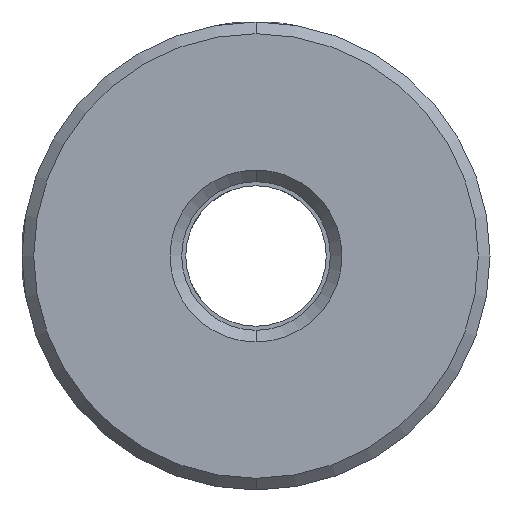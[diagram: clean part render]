
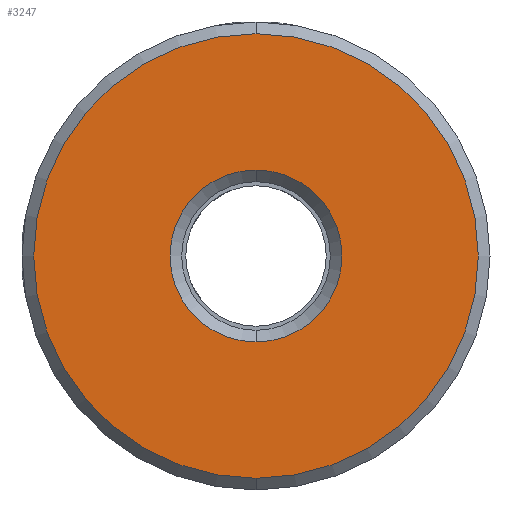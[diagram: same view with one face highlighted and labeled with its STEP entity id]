
A CAD part, front view. The second image highlights one B-rep face of the part: STEP entity #3247.
In plain terms, the highlighted planar face has unit normal (0, -1, 0).
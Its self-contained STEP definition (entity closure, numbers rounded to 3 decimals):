
#57 = DIRECTION ( 'NONE',  ( 0., -1., 0. ) ) ;
#111 = VERTEX_POINT ( 'NONE', #2008 ) ;
#246 = DIRECTION ( 'NONE',  ( 0., 1., 0. ) ) ;
#258 = CIRCLE ( 'NONE', #2914, 9.5 ) ;
#538 = EDGE_CURVE ( 'NONE', #111, #1102, #3173, .T. ) ;
#549 = DIRECTION ( 'NONE',  ( 0., 0., 1. ) ) ;
#578 = ORIENTED_EDGE ( 'NONE', *, *, #965, .T. ) ;
#590 = DIRECTION ( 'NONE',  ( 0., 1., 0. ) ) ;
#856 = FACE_OUTER_BOUND ( 'NONE', #1581, .T. ) ;
#902 = CARTESIAN_POINT ( 'NONE',  ( -10.188, -0.277, 0.046 ) ) ;
#924 = EDGE_CURVE ( 'NONE', #2937, #3537, #258, .T. ) ;
#965 = EDGE_CURVE ( 'NONE', #1102, #111, #1576, .T. ) ;
#1043 = DIRECTION ( 'NONE',  ( 0., 0., 1. ) ) ;
#1102 = VERTEX_POINT ( 'NONE', #3608 ) ;
#1171 = CARTESIAN_POINT ( 'NONE',  ( -10.188, -0.277, 0.046 ) ) ;
#1310 = DIRECTION ( 'NONE',  ( 0., 1., 0. ) ) ;
#1361 = CARTESIAN_POINT ( 'NONE',  ( -10.188, -0.277, 0.046 ) ) ;
#1576 = CIRCLE ( 'NONE', #3313, 3.675 ) ;
#1581 = EDGE_LOOP ( 'NONE', ( #3517, #1996 ) ) ;
#1604 = DIRECTION ( 'NONE',  ( 0., 0., 1. ) ) ;
#1721 = EDGE_LOOP ( 'NONE', ( #3393, #578 ) ) ;
#1955 = AXIS2_PLACEMENT_3D ( 'NONE', #2146, #2160, #2187 ) ;
#1996 = ORIENTED_EDGE ( 'NONE', *, *, #924, .T. ) ;
#2008 = CARTESIAN_POINT ( 'NONE',  ( -10.188, -0.277, -3.629 ) ) ;
#2027 = CIRCLE ( 'NONE', #1955, 9.5 ) ;
#2035 = EDGE_CURVE ( 'NONE', #3537, #2937, #2027, .T. ) ;
#2146 = CARTESIAN_POINT ( 'NONE',  ( -10.188, -0.277, 0.046 ) ) ;
#2156 = AXIS2_PLACEMENT_3D ( 'NONE', #1171, #590, #549 ) ;
#2160 = DIRECTION ( 'NONE',  ( 0., -1., 0. ) ) ;
#2187 = DIRECTION ( 'NONE',  ( 0., 0., 1. ) ) ;
#2479 = FACE_BOUND ( 'NONE', #1721, .T. ) ;
#2538 = DIRECTION ( 'NONE',  ( 0., 0., 1. ) ) ;
#2697 = AXIS2_PLACEMENT_3D ( 'NONE', #1361, #246, #1604 ) ;
#2914 = AXIS2_PLACEMENT_3D ( 'NONE', #902, #57, #2538 ) ;
#2937 = VERTEX_POINT ( 'NONE', #3122 ) ;
#2996 = CARTESIAN_POINT ( 'NONE',  ( -10.188, -0.277, 0.046 ) ) ;
#3001 = CARTESIAN_POINT ( 'NONE',  ( -10.188, -0.277, 9.546 ) ) ;
#3122 = CARTESIAN_POINT ( 'NONE',  ( -10.188, -0.277, -9.454 ) ) ;
#3173 = CIRCLE ( 'NONE', #2156, 3.675 ) ;
#3247 = ADVANCED_FACE ( 'NONE', ( #856, #2479 ), #3631, .F. ) ;
#3313 = AXIS2_PLACEMENT_3D ( 'NONE', #2996, #1310, #1043 ) ;
#3393 = ORIENTED_EDGE ( 'NONE', *, *, #538, .T. ) ;
#3517 = ORIENTED_EDGE ( 'NONE', *, *, #2035, .T. ) ;
#3537 = VERTEX_POINT ( 'NONE', #3001 ) ;
#3608 = CARTESIAN_POINT ( 'NONE',  ( -10.188, -0.277, 3.721 ) ) ;
#3631 = PLANE ( 'NONE',  #2697 ) ;
